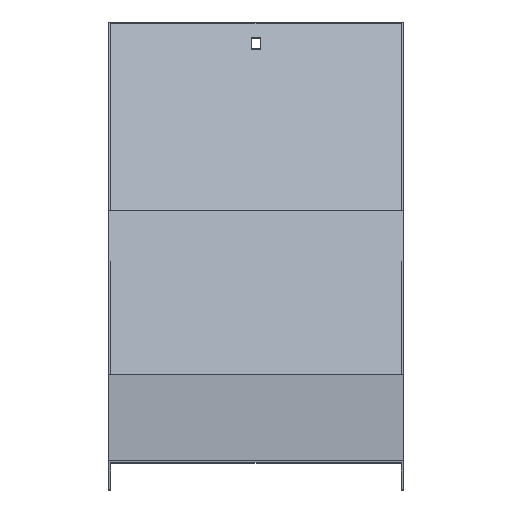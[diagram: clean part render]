
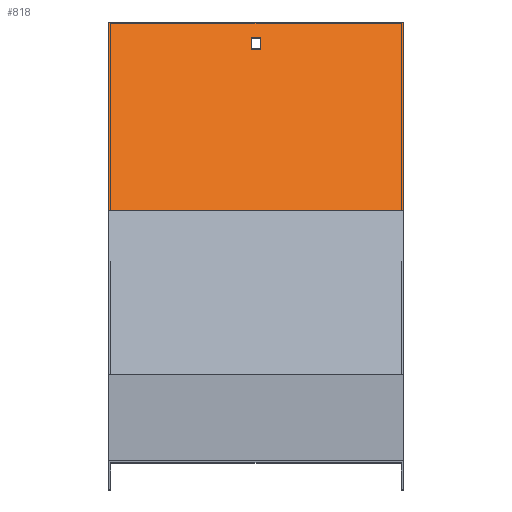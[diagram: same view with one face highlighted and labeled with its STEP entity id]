
A CAD part, top view. The second image highlights one B-rep face of the part: STEP entity #818.
In plain terms, the highlighted planar face has unit normal (0, 0.5, 0.866).
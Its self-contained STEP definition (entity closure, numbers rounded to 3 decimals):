
#36 = ORIENTED_EDGE ( 'NONE', *, *, #800, .F. ) ;
#38 = VECTOR ( 'NONE', #497, 1000. ) ;
#51 = FACE_OUTER_BOUND ( 'NONE', #290, .T. ) ;
#58 = DIRECTION ( 'NONE',  ( 0., 0.866, -0.5 ) ) ;
#67 = VERTEX_POINT ( 'NONE', #107 ) ;
#87 = EDGE_CURVE ( 'NONE', #470, #174, #406, .T. ) ;
#107 = CARTESIAN_POINT ( 'NONE',  ( 3.25, 284.772, -514.239 ) ) ;
#141 = CARTESIAN_POINT ( 'NONE',  ( 101.5, 173.228, -449.839 ) ) ;
#153 = CARTESIAN_POINT ( 'NONE',  ( -3.25, 292.566, -518.739 ) ) ;
#173 = EDGE_CURVE ( 'NONE', #174, #67, #903, .T. ) ;
#174 = VERTEX_POINT ( 'NONE', #346 ) ;
#182 = EDGE_CURVE ( 'NONE', #537, #943, #881, .T. ) ;
#190 = DIRECTION ( 'NONE',  ( 0., 0.866, -0.5 ) ) ;
#212 = DIRECTION ( 'NONE',  ( -1., 0., 0. ) ) ;
#227 = ORIENTED_EDGE ( 'NONE', *, *, #87, .F. ) ;
#240 = EDGE_CURVE ( 'NONE', #981, #943, #569, .T. ) ;
#247 = EDGE_CURVE ( 'NONE', #539, #981, #507, .T. ) ;
#249 = ORIENTED_EDGE ( 'NONE', *, *, #601, .F. ) ;
#260 = CARTESIAN_POINT ( 'NONE',  ( -3.25, 284.772, -514.239 ) ) ;
#266 = VECTOR ( 'NONE', #58, 1000. ) ;
#270 = CARTESIAN_POINT ( 'NONE',  ( 3.25, 284.772, -514.239 ) ) ;
#272 = DIRECTION ( 'NONE',  ( 0., 0.5, 0.866 ) ) ;
#290 = EDGE_LOOP ( 'NONE', ( #702, #36, #887, #733 ) ) ;
#336 = CARTESIAN_POINT ( 'NONE',  ( 101.5, 302.958, -524.739 ) ) ;
#337 = DIRECTION ( 'NONE',  ( -1., 0., 0. ) ) ;
#346 = CARTESIAN_POINT ( 'NONE',  ( -3.25, 284.772, -514.239 ) ) ;
#348 = PLANE ( 'NONE',  #915 ) ;
#401 = CARTESIAN_POINT ( 'NONE',  ( -101.5, 302.958, -524.739 ) ) ;
#406 = LINE ( 'NONE', #260, #38 ) ;
#422 = VECTOR ( 'NONE', #337, 1000. ) ;
#429 = CARTESIAN_POINT ( 'NONE',  ( 3.25, 292.566, -518.739 ) ) ;
#470 = VERTEX_POINT ( 'NONE', #153 ) ;
#489 = FACE_BOUND ( 'NONE', #671, .T. ) ;
#494 = ORIENTED_EDGE ( 'NONE', *, *, #173, .F. ) ;
#497 = DIRECTION ( 'NONE',  ( 0., -0.866, 0.5 ) ) ;
#507 = LINE ( 'NONE', #141, #726 ) ;
#531 = VECTOR ( 'NONE', #772, 1000. ) ;
#537 = VERTEX_POINT ( 'NONE', #538 ) ;
#538 = CARTESIAN_POINT ( 'NONE',  ( -101.5, 173.228, -449.839 ) ) ;
#539 = VERTEX_POINT ( 'NONE', #552 ) ;
#552 = CARTESIAN_POINT ( 'NONE',  ( 101.5, 173.228, -449.839 ) ) ;
#569 = LINE ( 'NONE', #890, #692 ) ;
#572 = LINE ( 'NONE', #902, #422 ) ;
#601 = EDGE_CURVE ( 'NONE', #715, #470, #617, .T. ) ;
#617 = LINE ( 'NONE', #952, #531 ) ;
#654 = DIRECTION ( 'NONE',  ( 1., 0., 0. ) ) ;
#671 = EDGE_LOOP ( 'NONE', ( #809, #494, #227, #249 ) ) ;
#686 = VECTOR ( 'NONE', #654, 1000. ) ;
#692 = VECTOR ( 'NONE', #212, 1000. ) ;
#702 = ORIENTED_EDGE ( 'NONE', *, *, #182, .F. ) ;
#715 = VERTEX_POINT ( 'NONE', #429 ) ;
#726 = VECTOR ( 'NONE', #190, 1000. ) ;
#733 = ORIENTED_EDGE ( 'NONE', *, *, #240, .T. ) ;
#749 = EDGE_CURVE ( 'NONE', #67, #715, #807, .T. ) ;
#772 = DIRECTION ( 'NONE',  ( -1., 0., 0. ) ) ;
#796 = CARTESIAN_POINT ( 'NONE',  ( 3.25, 284.772, -514.239 ) ) ;
#800 = EDGE_CURVE ( 'NONE', #539, #537, #572, .T. ) ;
#807 = LINE ( 'NONE', #796, #266 ) ;
#809 = ORIENTED_EDGE ( 'NONE', *, *, #749, .F. ) ;
#818 = ADVANCED_FACE ( 'NONE', ( #489, #51 ), #348, .T. ) ;
#881 = LINE ( 'NONE', #973, #886 ) ;
#886 = VECTOR ( 'NONE', #978, 1000. ) ;
#887 = ORIENTED_EDGE ( 'NONE', *, *, #247, .T. ) ;
#890 = CARTESIAN_POINT ( 'NONE',  ( 101.5, 302.958, -524.739 ) ) ;
#902 = CARTESIAN_POINT ( 'NONE',  ( 101.5, 173.228, -449.839 ) ) ;
#903 = LINE ( 'NONE', #270, #686 ) ;
#915 = AXIS2_PLACEMENT_3D ( 'NONE', #965, #272, #980 ) ;
#943 = VERTEX_POINT ( 'NONE', #401 ) ;
#952 = CARTESIAN_POINT ( 'NONE',  ( 3.25, 292.566, -518.739 ) ) ;
#965 = CARTESIAN_POINT ( 'NONE',  ( 101.5, 173.228, -449.839 ) ) ;
#973 = CARTESIAN_POINT ( 'NONE',  ( -101.5, 173.228, -449.839 ) ) ;
#978 = DIRECTION ( 'NONE',  ( 0., 0.866, -0.5 ) ) ;
#980 = DIRECTION ( 'NONE',  ( 0., -0.866, 0.5 ) ) ;
#981 = VERTEX_POINT ( 'NONE', #336 ) ;
